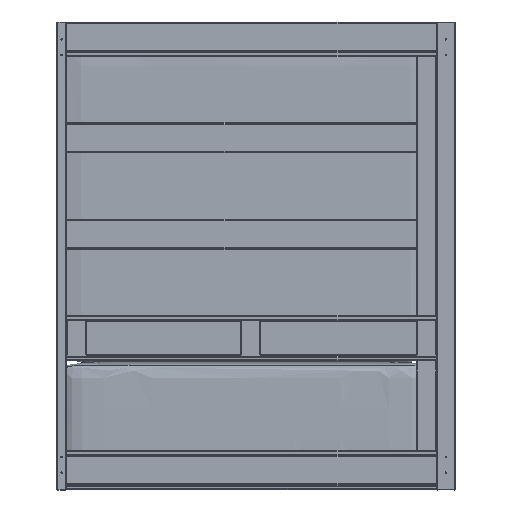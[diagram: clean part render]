
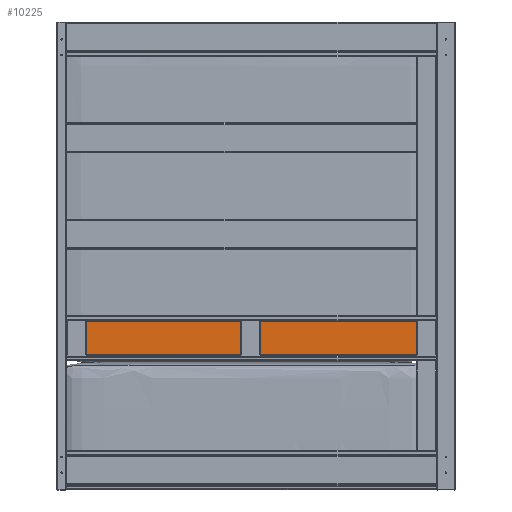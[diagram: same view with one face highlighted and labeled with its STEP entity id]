
A CAD part, front view. The second image highlights one B-rep face of the part: STEP entity #10225.
In plain terms, the highlighted planar face has unit normal (0, -1, 0).
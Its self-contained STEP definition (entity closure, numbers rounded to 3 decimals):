
#784=PLANE('',#11975);
#1318=FACE_OUTER_BOUND('',#1945,.T.);
#1945=EDGE_LOOP('',(#9383,#9384,#9385,#9386));
#2835=LINE('',#18031,#3731);
#2837=LINE('',#18048,#3733);
#2841=LINE('',#18061,#3737);
#2843=LINE('',#18064,#3739);
#3731=VECTOR('',#15039,10.);
#3733=VECTOR('',#15059,10.);
#3737=VECTOR('',#15075,10.);
#3739=VECTOR('',#15079,10.);
#5093=VERTEX_POINT('',#18012);
#5099=VERTEX_POINT('',#18026);
#5103=VERTEX_POINT('',#18040);
#5108=VERTEX_POINT('',#18056);
#6511=EDGE_CURVE('',#5093,#5099,#2835,.T.);
#6519=EDGE_CURVE('',#5103,#5093,#2837,.T.);
#6526=EDGE_CURVE('',#5099,#5108,#2841,.T.);
#6528=EDGE_CURVE('',#5108,#5103,#2843,.T.);
#9383=ORIENTED_EDGE('',*,*,#6511,.F.);
#9384=ORIENTED_EDGE('',*,*,#6519,.F.);
#9385=ORIENTED_EDGE('',*,*,#6528,.F.);
#9386=ORIENTED_EDGE('',*,*,#6526,.F.);
#10225=ADVANCED_FACE('',(#1318),#784,.F.);
#11975=AXIS2_PLACEMENT_3D('',#18087,#15110,#15111);
#15039=DIRECTION('',(0.,0.,-1.));
#15059=DIRECTION('',(1.,0.,0.));
#15075=DIRECTION('',(-1.,0.,0.));
#15079=DIRECTION('',(0.,0.,1.));
#15110=DIRECTION('center_axis',(0.,1.,0.));
#15111=DIRECTION('ref_axis',(0.,0.,1.));
#18012=CARTESIAN_POINT('',(373.,0.,33.5));
#18026=CARTESIAN_POINT('',(373.,0.,-33.5));
#18031=CARTESIAN_POINT('',(373.,0.,17.));
#18040=CARTESIAN_POINT('',(-373.,0.,33.5));
#18048=CARTESIAN_POINT('',(-186.75,0.,33.5));
#18056=CARTESIAN_POINT('',(-373.,0.,-33.5));
#18061=CARTESIAN_POINT('',(186.75,0.,-33.5));
#18064=CARTESIAN_POINT('',(-373.,0.,-17.));
#18087=CARTESIAN_POINT('Origin',(0.,0.,0.));
